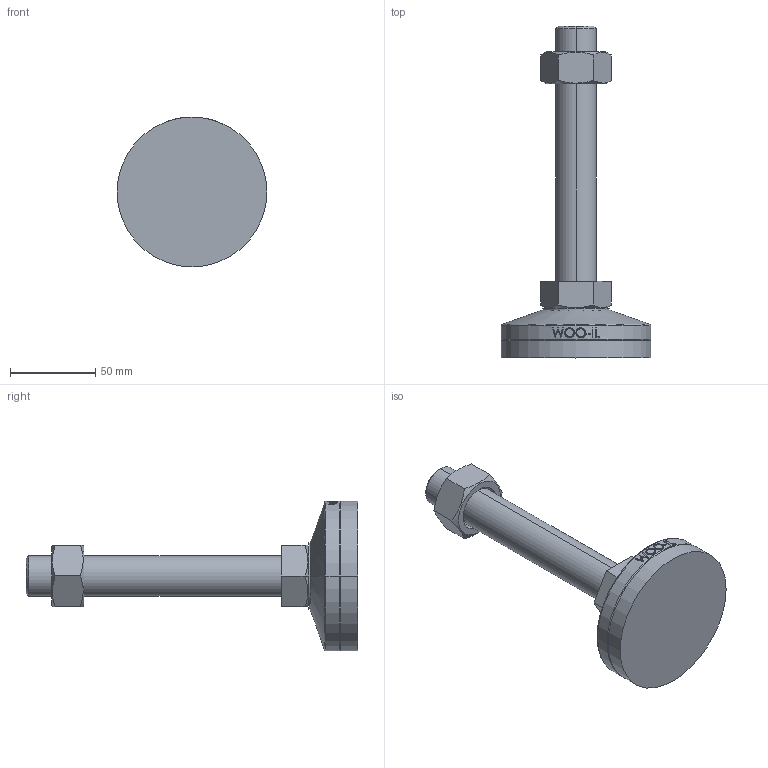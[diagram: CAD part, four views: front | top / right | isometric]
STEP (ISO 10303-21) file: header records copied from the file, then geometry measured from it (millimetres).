
FILE_DESCRIPTION (( 'STEP AP214' ), '1' );
FILE_NAME ('MFTR88-M24-150.step', '2021-02-08T08:39:22', ( '' ), ( '' ), 'SwSTEP 2.0', 'SolidWorks 2019', '' );
FILE_SCHEMA (( 'AUTOMOTIVE_DESIGN' ));
Length unit declared in the file: millimetre
Products named in the file (2): MFTR88-M24-150
Bounding box: 88 x 195 x 88 mm (x, y, z)
Volume: 246287.7 mm3; surface area: 50213.3 mm2
Topology: 4 solids, 4 shells, 103 faces, 239 edges, 154 vertices
Faces by surface type: plane 49, cylinder 18, bspline 16, cone 14, torus 6
Entity records: 4465 total; most frequent: CARTESIAN_POINT 2172, ORIENTED_EDGE 478, DIRECTION 417, EDGE_CURVE 239, AXIS2_PLACEMENT_3D 159, VERTEX_POINT 154, EDGE_LOOP 115, ADVANCED_FACE 103
